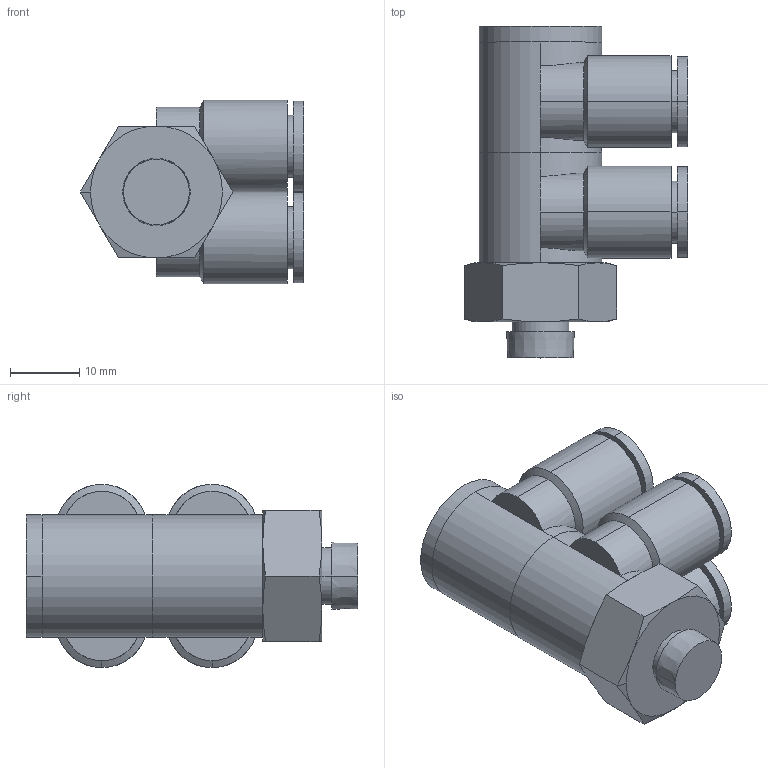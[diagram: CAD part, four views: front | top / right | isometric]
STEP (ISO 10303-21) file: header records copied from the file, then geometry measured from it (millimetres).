
FILE_DESCRIPTION (( 'STEP AP203' ), '1' );
FILE_NAME ('FZD08-01.STEP', '2020-05-11T14:47:53', ( '' ), ( '' ), 'SwSTEP 2.0', 'SolidWorks 2019', '' );
FILE_SCHEMA (( 'CONFIG_CONTROL_DESIGN' ));
Length unit declared in the file: millimetre
Products named in the file (1): FZD08-01
Bounding box: 32.17 x 47.8 x 26.4 mm (x, y, z)
Volume: 16760.4 mm3; surface area: 11322.8 mm2
Topology: 3 solids, 3 shells, 112 faces, 248 edges, 158 vertices
Faces by surface type: cylinder 52, plane 38, cone 22
Entity records: 4183 total; most frequent: CARTESIAN_POINT 1595, DIRECTION 552, ORIENTED_EDGE 496, EDGE_CURVE 248, AXIS2_PLACEMENT_3D 239, VERTEX_POINT 158, EDGE_LOOP 132, CIRCLE 126
